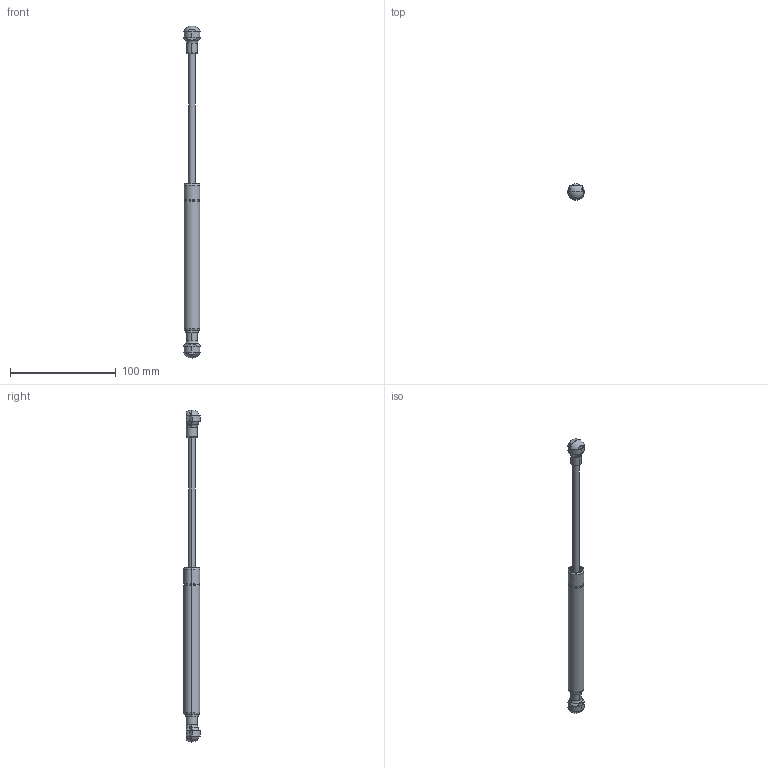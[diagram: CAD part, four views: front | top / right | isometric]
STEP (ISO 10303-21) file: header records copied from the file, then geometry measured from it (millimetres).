
FILE_DESCRIPTION (( 'STEP AP214' ), '1' );
FILE_NAME ('GS06-0400PE10.STEP', '2011-03-14T20:01:17', ( 'user' ), ( '' ), 'SwSTEP 2.0', 'SolidWorks 2011', '' );
FILE_SCHEMA (( 'AUTOMOTIVE_DESIGN' ));
Length unit declared in the file: millimetre
Products named in the file (5): socket; GS06-0400PE10-NC; GS06-0400PE10; GS06-0400PE10-SHAFT; GS06-0400PE10-TUBE
Assembly tree (5 placements, depth 3):
  GS06-0400PE10
    socket  x2
    GS06-0400PE10-NC
      GS06-0400PE10-TUBE
      GS06-0400PE10-SHAFT
Bounding box: 15.5 x 15.3 x 314 mm (x, y, z)
Volume: 28850.3 mm3; surface area: 15405.2 mm2
Topology: 4 solids, 4 shells, 185 faces, 508 edges, 334 vertices
Faces by surface type: plane 77, cylinder 68, torus 20, sphere 16, cone 4
Entity records: 4574 total; most frequent: CARTESIAN_POINT 898, DIRECTION 604, ORIENTED_EDGE 556, EDGE_CURVE 278, AXIS2_PLACEMENT_3D 250, VERTEX_POINT 181, CIRCLE 134, EDGE_LOOP 113
